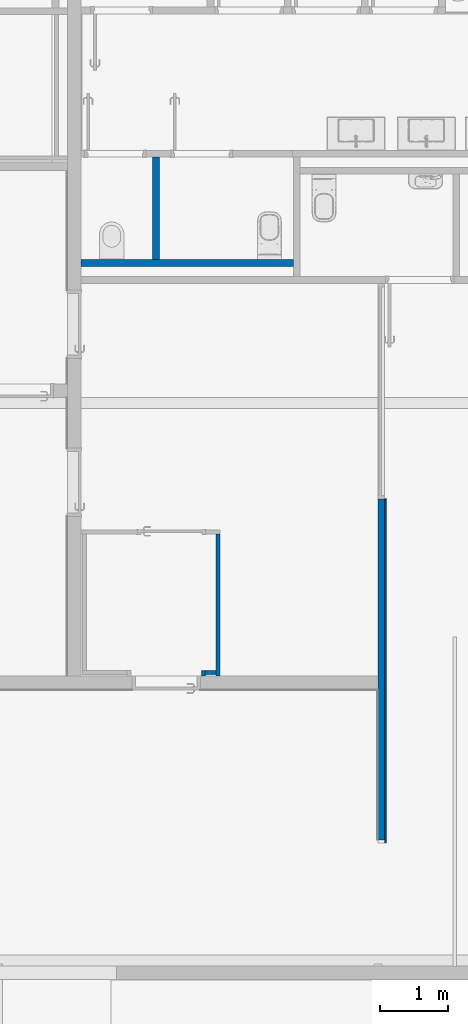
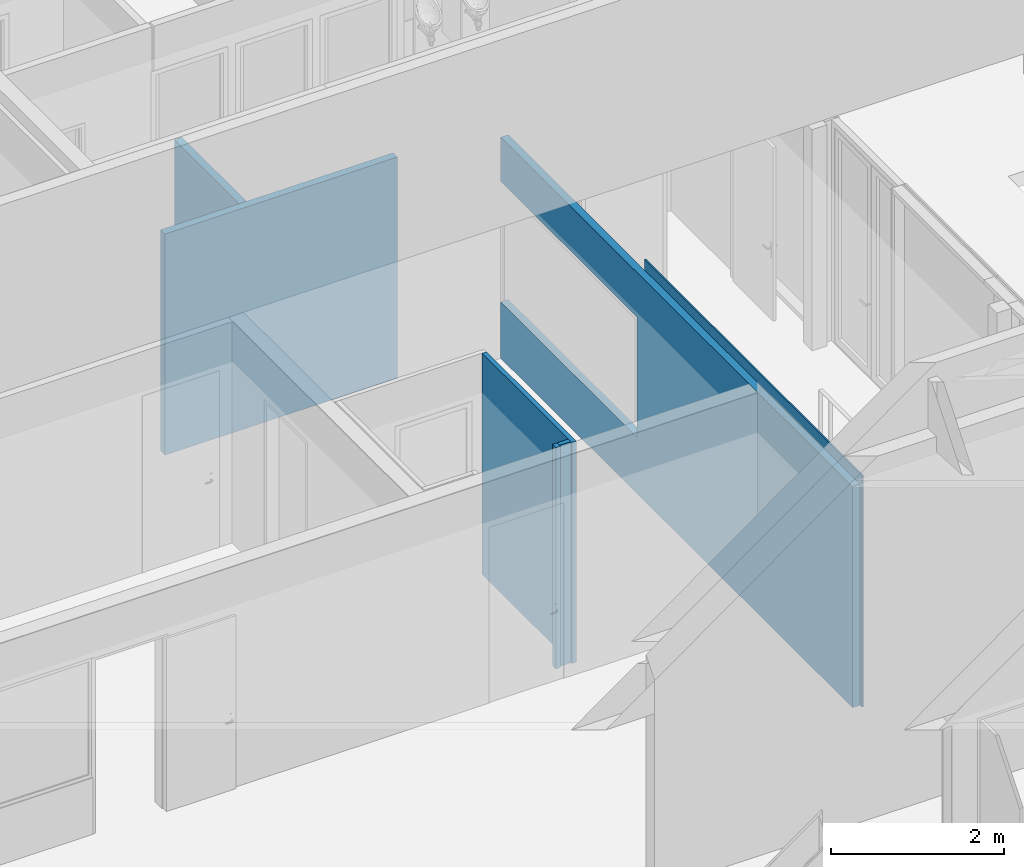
# One storey, part 93 of 240: 7 walls, 1 opening.
"""IFC2X3 building model written with IfcOpenShell, lengths in centimetres."""

from ifc_helpers import new_model, entity, si_unit, converted_unit, derived_unit, direction, frame, frame_2d, origin, place, context, subcontext, project, spatial, polyline, rectangle, extrude, clip, bounded_halfspace, material, layer, layer_set, layer_usage, type_object, element, save


model = new_model("IFC2X3")

# Units and contexts
model_context = context("Model", 3, precision=0.001, world=origin(), true_north=direction((6.12303176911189e-17, 1.0)))
body_context = subcontext(model_context, "Body", "Model", "MODEL_VIEW")
ifc_project = project(units=[si_unit("LENGTHUNIT", "METRE", prefix="CENTI"), si_unit("AREAUNIT", "SQUARE_METRE"), si_unit("VOLUMEUNIT", "CUBIC_METRE"), converted_unit("PLANEANGLEUNIT", "DEGREE", entity("IfcRatioMeasure", 0.0174532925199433), si_unit("PLANEANGLEUNIT", "RADIAN"), dimensions=[0, 0, 0, 0, 0, 0, 0]), si_unit("MASSUNIT", "GRAM", prefix="KILO"), derived_unit("MASSDENSITYUNIT", [(si_unit("MASSUNIT", "GRAM", prefix="KILO"), 1), (si_unit("LENGTHUNIT", "METRE"), -3)]), si_unit("TIMEUNIT", "SECOND"), si_unit("FREQUENCYUNIT", "HERTZ"), si_unit("THERMODYNAMICTEMPERATUREUNIT", "DEGREE_CELSIUS"), derived_unit("THERMALTRANSMITTANCEUNIT", [(si_unit("MASSUNIT", "GRAM", prefix="KILO"), 1), (si_unit("THERMODYNAMICTEMPERATUREUNIT", "KELVIN"), -1), (si_unit("TIMEUNIT", "SECOND"), -3)]), derived_unit("VOLUMETRICFLOWRATEUNIT", [(si_unit("LENGTHUNIT", "METRE"), 3), (si_unit("TIMEUNIT", "SECOND"), -1)]), si_unit("ELECTRICCURRENTUNIT", "AMPERE"), si_unit("ELECTRICVOLTAGEUNIT", "VOLT"), si_unit("POWERUNIT", "WATT"), si_unit("FORCEUNIT", "NEWTON", prefix="KILO"), si_unit("ILLUMINANCEUNIT", "LUX"), si_unit("LUMINOUSFLUXUNIT", "LUMEN"), si_unit("LUMINOUSINTENSITYUNIT", "CANDELA"), derived_unit("USERDEFINED", [(si_unit("MASSUNIT", "GRAM", prefix="KILO"), -1), (si_unit("LENGTHUNIT", "METRE"), -2), (si_unit("TIMEUNIT", "SECOND"), 3), (si_unit("LUMINOUSFLUXUNIT", "LUMEN"), 1)]), derived_unit("LINEARVELOCITYUNIT", [(si_unit("LENGTHUNIT", "METRE"), 1), (si_unit("TIMEUNIT", "SECOND"), -1)]), si_unit("PRESSUREUNIT", "PASCAL"), derived_unit("USERDEFINED", [(si_unit("LENGTHUNIT", "METRE"), -2), (si_unit("MASSUNIT", "GRAM", prefix="KILO"), 1), (si_unit("TIMEUNIT", "SECOND"), -2)])], contexts=[model_context])

# Site, building, storey
site_placement = place(None, frame((-2781.94577612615, 7442.24238424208, 0.0)))
site = spatial("IfcSite", under=ifc_project, at=site_placement, Name="Default", CompositionType="ELEMENT")
building_placement = place(site_placement, origin())
building = spatial("IfcBuilding", under=site, at=building_placement, CompositionType="ELEMENT")
storey_placement = place(building_placement, origin())
storey = spatial("IfcBuildingStorey", under=building, at=storey_placement, Name="N00 - COO", CompositionType="ELEMENT", Elevation=0.0)

# Wall, opening
ifc_material_1 = material(Name="01 - Enduit/Plâtre")
ifc_layer_1 = layer(ifc_material_1, 1.3)
ifc_material_2 = material(Name="00 - Isolant")
ifc_layer_2 = layer(ifc_material_2, 7.4)
ifc_layer_3 = layer(ifc_material_1, 1.3)
ifc_layer_set_1 = layer_set([ifc_layer_1, ifc_layer_2, ifc_layer_3], Name="Mur de base:06 - cloisons - Ba13 10cm")
ifc_layer_usage_1 = layer_usage(ifc_layer_set_1, "AXIS2", "NEGATIVE", 5.0)
wall_type_1 = type_object("IfcWallType", Name="Mur de base:06 - cloisons - Ba13 10cm", PredefinedType="STANDARD", material=ifc_layer_set_1)
wall_1_placement = place(building_placement, frame((-9236.932180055, -3205.07903364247, 0.0), z_axis=(0.0, 0.0, 1.0), x_axis=(0.0, -1.0, 0.0)))
wall_1 = element("IfcWallStandardCase", 1, at=wall_1_placement, inside=storey, type_object=wall_type_1, material=ifc_layer_usage_1, Name="Mur de base:06 - cloisons - Ba13 10cm", ObjectType="Mur de base:06 - cloisons - Ba13 10cm", context=body_context, shape_type="SweptSolid", body=[
    extrude(rectangle(XDim=815.500000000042, YDim=10.0000000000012, at=frame_2d((407.750000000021, -5.32907051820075e-15), x_axis=(-1.0, 0.0))), origin(), (0.0, 0.0, 1.0), 313.0),
])
opening_placement = place(wall_1_placement, frame((0.0, -5.0, 80.0)))
element("IfcOpeningElement", 2, at=opening_placement, cuts=wall_1, Name="châssis intérieur vitré:châssis intérieur vitré self  (h=2.22) 2:1", ObjectType="Opening", context=body_context, shape_type="SweptSolid", body=[
    extrude(rectangle(XDim=170.0, YDim=315.692772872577, at=frame_2d((84.9999999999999, 157.846386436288), x_axis=(1.0, 0.0))), frame((0.0, 0.0, 0.0), z_axis=(0.0, 1.0, 0.0), x_axis=(0.0, 0.0, 1.0)), (0.0, 0.0, 1.0), 10.0),
])

# Walls
ifc_material_3 = material(Name="Plastique, blanc opaque")
ifc_layer_4 = layer(ifc_material_3, 0.2)
ifc_material_4 = material(Name="00 - Isolant cloison Frigo")
ifc_layer_5 = layer(ifc_material_4, 5.6)
ifc_layer_6 = layer(ifc_material_3, 0.2)
ifc_layer_set_2 = layer_set([ifc_layer_4, ifc_layer_5, ifc_layer_6], Name="Mur de base:06 - cloisons - cuisine 6cm")
ifc_layer_usage_2 = layer_usage(ifc_layer_set_2, "AXIS2", "NEGATIVE", 3.0)
wall_type_2 = type_object("IfcWallType", Name="Mur de base:06 - cloisons - cuisine 6cm", PredefinedType="STANDARD", material=ifc_layer_set_2)
wall_2_placement = place(building_placement, frame((-9476.02524793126, -3572.51217637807, 0.0), z_axis=(0.0, 0.0, 1.0), x_axis=(0.0, -1.0, 0.0)))
element("IfcWallStandardCase", 3, at=wall_2_placement, inside=storey, type_object=wall_type_2, material=ifc_layer_usage_2, Name="Mur de base:06 - cloisons - cuisine 6cm", ObjectType="Mur de base:06 - cloisons - cuisine 6cm", context=body_context, shape_type="SweptSolid", body=[
    extrude(rectangle(XDim=208.207484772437, YDim=5.99999999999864, at=frame_2d((104.103742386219, 0.0), x_axis=(-1.0, 0.0))), origin(), (0.0, 0.0, 1.0), 313.0),
])
ifc_layer_usage_3 = layer_usage(ifc_layer_set_2, "AXIS2", "NEGATIVE", 3.0)
wall_3_placement = place(building_placement, frame((-9494.4999969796, -3775.5337352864, 0.0)))
element("IfcWallStandardCase", 4, at=wall_3_placement, inside=storey, type_object=wall_type_2, material=ifc_layer_usage_3, Name="Mur de base:06 - cloisons - cuisine 6cm", ObjectType="Mur de base:06 - cloisons - cuisine 6cm", context=body_context, shape_type="SweptSolid", body=[
    extrude(rectangle(XDim=15.4747490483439, YDim=6.00000000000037, at=frame_2d((7.73737452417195, 0.0), x_axis=(-1.0, 0.0))), origin(), (0.0, 0.0, 1.0), 313.00000000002),
])
ifc_layer_usage_4 = layer_usage(ifc_layer_set_2, "AXIS2", "NEGATIVE", 3.0)
wall_4_placement = place(building_placement, frame((-9497.4999969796, -3780.71966115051, 0.0), z_axis=(0.0, 0.0, 1.0), x_axis=(0.0, 1.0, 0.0)))
element("IfcWallStandardCase", 5, at=wall_4_placement, inside=storey, type_object=wall_type_2, material=ifc_layer_usage_4, Name="Mur de base:06 - cloisons - cuisine 6cm", ObjectType="Mur de base:06 - cloisons - cuisine 6cm", context=body_context, shape_type="SweptSolid", body=[
    extrude(rectangle(XDim=8.18592586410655, YDim=5.99999999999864, at=frame_2d((4.09296293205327, 0.0), x_axis=(-1.0, 0.0))), origin(), (0.0, 0.0, 1.0), 313.00000000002),
])
ifc_layer_7 = layer(ifc_material_1, 1.3)
ifc_material_5 = material(Name="Terre cuite")
ifc_layer_8 = layer(ifc_material_5, 7.4)
ifc_layer_9 = layer(ifc_material_1, 1.3)
ifc_layer_set_3 = layer_set([ifc_layer_7, ifc_layer_8, ifc_layer_9], Name="Mur de base:06 - cloisons - Carreau de terre cuite (10cm)")
ifc_layer_usage_5 = layer_usage(ifc_layer_set_3, "AXIS2", "NEGATIVE", 5.0)
wall_type_3 = type_object("IfcWallType", Name="Mur de base:06 - cloisons - Carreau de terre cuite (10cm)", PredefinedType="STANDARD", material=ifc_layer_set_3)
wall_5_placement = place(building_placement, frame((-9567.0, -3020.07903364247, 0.0), z_axis=(0.0, 0.0, 1.0), x_axis=(0.0, -1.0, 0.0)))
element("IfcWallStandardCase", 6, at=wall_5_placement, inside=storey, type_object=wall_type_3, material=ifc_layer_usage_5, Name="Mur de base:06 - cloisons - Carreau de terre cuite (10cm)", ObjectType="Mur de base:06 - cloisons - Carreau de terre cuite (10cm)", context=body_context, shape_type="Clipping", body=[
    clip(extrude(rectangle(XDim=150.0, YDim=10.0000000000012, at=frame_2d((75.0000000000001, 0.0), x_axis=(-1.0, 0.0))), origin(), (0.0, 0.0, 1.0), 313.0), bounded_halfspace(frame((0.0, -5.0, 313.0), z_axis=(0.0, 0.0, 1.0), x_axis=(0.0, 1.0, 0.0)), False, frame((0.0, -5.0, 313.0)), polyline([(0.0, 0.0), (150.0, 0.0), (150.0, 10.0), (0.0, 10.0), (0.0, 0.0)]))),
])
ifc_layer_usage_6 = layer_usage(ifc_layer_set_3, "AXIS2", "NEGATIVE", 5.0)
wall_6_placement = place(building_placement, frame((-9677.0, -3175.07903364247, 0.0)))
element("IfcWallStandardCase", 7, at=wall_6_placement, inside=storey, type_object=wall_type_3, material=ifc_layer_usage_6, Name="Mur de base:06 - cloisons - Carreau de terre cuite (10cm)", ObjectType="Mur de base:06 - cloisons - Carreau de terre cuite (10cm)", context=body_context, shape_type="Clipping", body=[
    clip(extrude(rectangle(XDim=311.140774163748, YDim=10.0000000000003, at=frame_2d((155.570387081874, -2.48689957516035e-14), x_axis=(-1.0, 0.0))), origin(), (0.0, 0.0, 1.0), 313.0), bounded_halfspace(frame((0.0, -5.0, 313.0)), False, frame((0.0, -5.0, 313.0)), polyline([(0.0, 0.0), (311.140774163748, 0.0), (311.140774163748, 10.0), (115.0, 10.0), (105.0, 10.0), (0.0, 10.0), (0.0, 0.0)]))),
])
ifc_material_6 = material(Name="Pin")
ifc_layer_10 = layer(ifc_material_6, 2.0)
ifc_layer_set_4 = layer_set([ifc_layer_10], Name="Mur de base:06 - habillage bois collée 2cm")
ifc_layer_usage_7 = layer_usage(ifc_layer_set_4, "AXIS2", "NEGATIVE", 1.0)
wall_type_4 = type_object("IfcWallType", Name="Mur de base:06 - habillage bois collée 2cm", PredefinedType="STANDARD", material=ifc_layer_set_4)
wall_7_placement = place(storey_placement, frame((-9230.932180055, -4025.07903364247, 0.0), z_axis=(0.0, 0.0, 1.0), x_axis=(0.0, 1.0, 0.0)))
element("IfcWallStandardCase", 8, at=wall_7_placement, inside=storey, type_object=wall_type_4, material=ifc_layer_usage_7, Name="Mur de base:06 - habillage bois collée 2cm", ObjectType="Mur de base:06 - habillage bois collée 2cm", context=body_context, shape_type="SweptSolid", body=[
    extrude(rectangle(XDim=504.307227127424, YDim=1.99999999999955, at=frame_2d((252.153613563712, 0.0), x_axis=(-1.0, 0.0))), origin(), (0.0, 0.0, 1.0), 327.999999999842),
])

save(model, "model.ifc")
